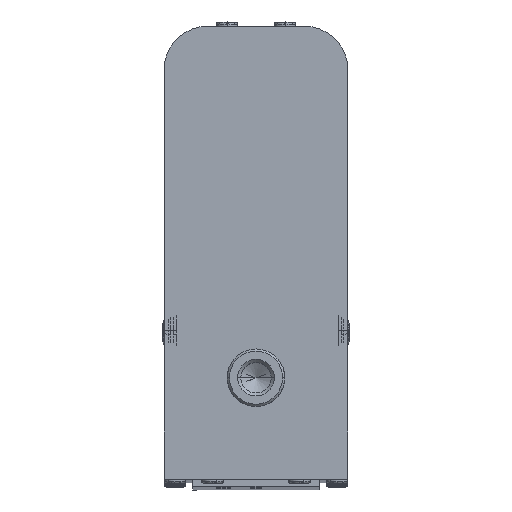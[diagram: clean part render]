
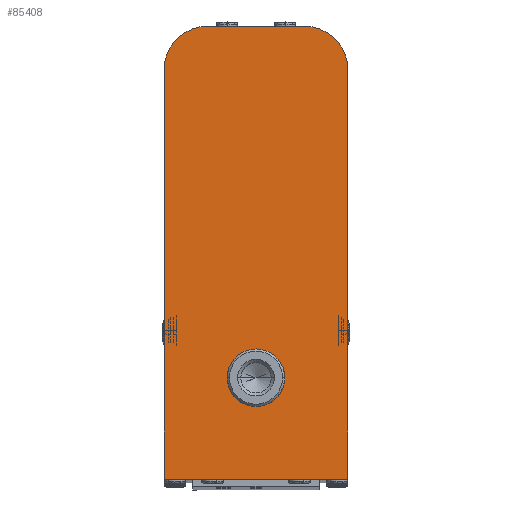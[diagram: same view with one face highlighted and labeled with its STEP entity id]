
A CAD part, top view. The second image highlights one B-rep face of the part: STEP entity #85408.
In plain terms, the highlighted planar face has unit normal (0, 0, 1).
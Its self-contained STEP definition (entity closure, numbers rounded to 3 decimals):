
#459 = VECTOR ( 'NONE', #86268, 1000. ) ;
#1535 = CARTESIAN_POINT ( 'NONE',  ( -12.7, -24.4, 0. ) ) ;
#1944 = CARTESIAN_POINT ( 'NONE',  ( -12.7, 32.1, 0. ) ) ;
#2095 = ORIENTED_EDGE ( 'NONE', *, *, #79539, .F. ) ;
#2844 = VERTEX_POINT ( 'NONE', #76709 ) ;
#6282 = CARTESIAN_POINT ( 'NONE',  ( 12.7, 38.1, 0. ) ) ;
#8004 = DIRECTION ( 'NONE',  ( 1., 0., 0. ) ) ;
#8563 = CARTESIAN_POINT ( 'NONE',  ( 0., -10.446, 0. ) ) ;
#9178 = CIRCLE ( 'NONE', #63146, 6. ) ;
#10222 = VERTEX_POINT ( 'NONE', #34474 ) ;
#10414 = VECTOR ( 'NONE', #59405, 1000. ) ;
#12278 = EDGE_CURVE ( 'NONE', #19928, #35715, #71776, .T. ) ;
#12873 = CARTESIAN_POINT ( 'NONE',  ( 12.7, 38.1, 0. ) ) ;
#13018 = EDGE_CURVE ( 'NONE', #34376, #2844, #51723, .T. ) ;
#14952 = VECTOR ( 'NONE', #93008, 1000. ) ;
#16317 = DIRECTION ( 'NONE',  ( 1., 0., 0. ) ) ;
#19928 = VERTEX_POINT ( 'NONE', #1944 ) ;
#21016 = FACE_BOUND ( 'NONE', #30969, .T. ) ;
#23554 = VERTEX_POINT ( 'NONE', #41352 ) ;
#24388 = VERTEX_POINT ( 'NONE', #58922 ) ;
#25229 = DIRECTION ( 'NONE',  ( 1., 0., 0. ) ) ;
#26841 = FACE_OUTER_BOUND ( 'NONE', #33009, .T. ) ;
#27208 = AXIS2_PLACEMENT_3D ( 'NONE', #64918, #93394, #42737 ) ;
#27411 = LINE ( 'NONE', #12873, #459 ) ;
#30969 = EDGE_LOOP ( 'NONE', ( #88994, #58215 ) ) ;
#32313 = VERTEX_POINT ( 'NONE', #41484 ) ;
#33009 = EDGE_LOOP ( 'NONE', ( #65925, #56577, #2095, #94114, #86546, #54287 ) ) ;
#34376 = VERTEX_POINT ( 'NONE', #95321 ) ;
#34474 = CARTESIAN_POINT ( 'NONE',  ( 12.7, -24.4, 0. ) ) ;
#35519 = PLANE ( 'NONE',  #27208 ) ;
#35715 = VERTEX_POINT ( 'NONE', #1535 ) ;
#39301 = CIRCLE ( 'NONE', #71658, 3.969 ) ;
#41352 = CARTESIAN_POINT ( 'NONE',  ( 3.969, -10.446, 0. ) ) ;
#41484 = CARTESIAN_POINT ( 'NONE',  ( 12.7, 32.1, 0. ) ) ;
#42737 = DIRECTION ( 'NONE',  ( 1., 0., 0. ) ) ;
#44092 = CARTESIAN_POINT ( 'NONE',  ( 0., -10.446, 0. ) ) ;
#44180 = CARTESIAN_POINT ( 'NONE',  ( -8.7, -24.4, 0. ) ) ;
#44254 = CARTESIAN_POINT ( 'NONE',  ( -6.7, 32.1, 0. ) ) ;
#44987 = EDGE_CURVE ( 'NONE', #10222, #35715, #65881, .T. ) ;
#45147 = DIRECTION ( 'NONE',  ( -1., 0., 0. ) ) ;
#45329 = CARTESIAN_POINT ( 'NONE',  ( 6.7, 32.1, 0. ) ) ;
#50256 = EDGE_CURVE ( 'NONE', #23554, #24388, #39301, .T. ) ;
#51609 = DIRECTION ( 'NONE',  ( 1., 0., 0. ) ) ;
#51723 = LINE ( 'NONE', #6282, #10414 ) ;
#52087 = DIRECTION ( 'NONE',  ( 0., 0., 1. ) ) ;
#54287 = ORIENTED_EDGE ( 'NONE', *, *, #70161, .T. ) ;
#56577 = ORIENTED_EDGE ( 'NONE', *, *, #44987, .F. ) ;
#56945 = AXIS2_PLACEMENT_3D ( 'NONE', #44092, #69132, #25229 ) ;
#58215 = ORIENTED_EDGE ( 'NONE', *, *, #50256, .F. ) ;
#58922 = CARTESIAN_POINT ( 'NONE',  ( -3.969, -10.446, 0. ) ) ;
#59405 = DIRECTION ( 'NONE',  ( -1., 0., 0. ) ) ;
#63146 = AXIS2_PLACEMENT_3D ( 'NONE', #45329, #74772, #16317 ) ;
#64918 = CARTESIAN_POINT ( 'NONE',  ( 0., 0., 0. ) ) ;
#65881 = LINE ( 'NONE', #44180, #68674 ) ;
#65925 = ORIENTED_EDGE ( 'NONE', *, *, #12278, .T. ) ;
#68674 = VECTOR ( 'NONE', #45147, 1000. ) ;
#69132 = DIRECTION ( 'NONE',  ( 0., 0., 1. ) ) ;
#70161 = EDGE_CURVE ( 'NONE', #2844, #19928, #92247, .T. ) ;
#70827 = CARTESIAN_POINT ( 'NONE',  ( -12.7, 38.1, 0. ) ) ;
#71658 = AXIS2_PLACEMENT_3D ( 'NONE', #8563, #52087, #51609 ) ;
#71776 = LINE ( 'NONE', #70827, #14952 ) ;
#72745 = EDGE_CURVE ( 'NONE', #24388, #23554, #95402, .T. ) ;
#73706 = DIRECTION ( 'NONE',  ( 0., 0., 1. ) ) ;
#74772 = DIRECTION ( 'NONE',  ( 0., 0., 1. ) ) ;
#76709 = CARTESIAN_POINT ( 'NONE',  ( -6.7, 38.1, 0. ) ) ;
#79539 = EDGE_CURVE ( 'NONE', #32313, #10222, #27411, .T. ) ;
#85408 = ADVANCED_FACE ( 'NONE', ( #26841, #21016 ), #35519, .T. ) ;
#86268 = DIRECTION ( 'NONE',  ( 0., -1., 0. ) ) ;
#86546 = ORIENTED_EDGE ( 'NONE', *, *, #13018, .T. ) ;
#88994 = ORIENTED_EDGE ( 'NONE', *, *, #72745, .F. ) ;
#90407 = EDGE_CURVE ( 'NONE', #32313, #34376, #9178, .T. ) ;
#92042 = AXIS2_PLACEMENT_3D ( 'NONE', #44254, #73706, #8004 ) ;
#92247 = CIRCLE ( 'NONE', #92042, 6. ) ;
#93008 = DIRECTION ( 'NONE',  ( 0., -1., 0. ) ) ;
#93394 = DIRECTION ( 'NONE',  ( 0., 0., 1. ) ) ;
#94114 = ORIENTED_EDGE ( 'NONE', *, *, #90407, .T. ) ;
#95321 = CARTESIAN_POINT ( 'NONE',  ( 6.7, 38.1, 0. ) ) ;
#95402 = CIRCLE ( 'NONE', #56945, 3.969 ) ;
